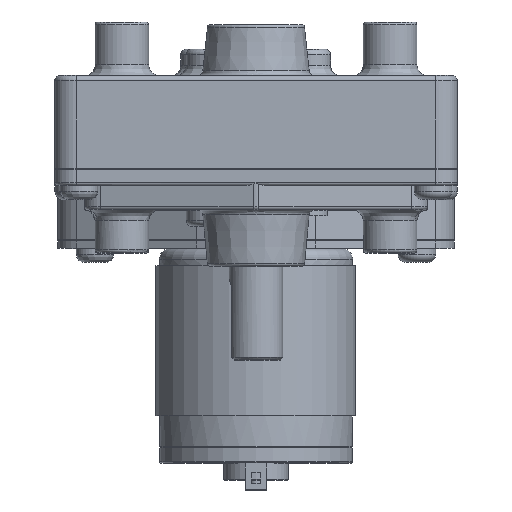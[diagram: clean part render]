
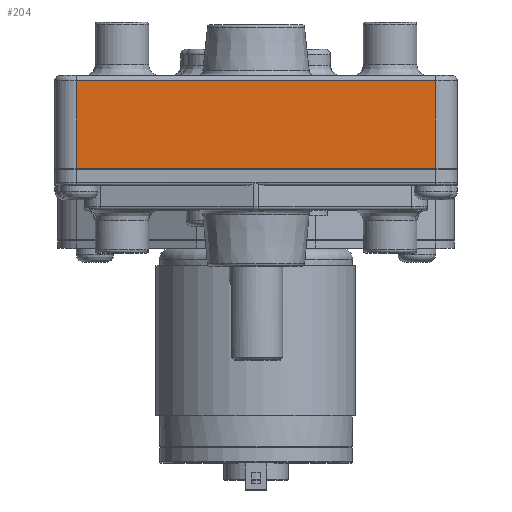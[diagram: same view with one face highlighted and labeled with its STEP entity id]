
A CAD part, top view. The second image highlights one B-rep face of the part: STEP entity #204.
In plain terms, the highlighted planar face has unit normal (0, 0, 1).
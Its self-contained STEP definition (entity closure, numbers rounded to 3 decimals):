
#113=CARTESIAN_POINT('',(-33.5,20.5,54.499));
#114=VERTEX_POINT('',#113);
#123=CARTESIAN_POINT('',(-33.5,4.2,54.499));
#124=VERTEX_POINT('',#123);
#132=CARTESIAN_POINT('',(-33.5,4.2,54.499));
#133=DIRECTION('',(0.0,1.0,0.0));
#134=VECTOR('',#133,16.3);
#135=LINE('',#132,#134);
#136=EDGE_CURVE('',#124,#114,#135,.T.);
#146=CARTESIAN_POINT('',(33.5,20.5,54.499));
#147=VERTEX_POINT('',#146);
#157=CARTESIAN_POINT('',(33.5,4.2,54.499));
#158=VERTEX_POINT('',#157);
#159=CARTESIAN_POINT('',(33.5,20.5,54.499));
#160=DIRECTION('',(0.0,-1.0,0.0));
#161=VECTOR('',#160,16.3);
#162=LINE('',#159,#161);
#163=EDGE_CURVE('',#147,#158,#162,.T.);
#183=CARTESIAN_POINT('',(37.5,4.,54.499));
#184=DIRECTION('',(0.0,0.0,1.0));
#185=DIRECTION('',(1.0,0.0,0.0));
#186=AXIS2_PLACEMENT_3D('',#183,#184,#185);
#187=PLANE('',#186);
#188=CARTESIAN_POINT('',(-33.5,20.5,54.499));
#189=DIRECTION('',(1.0,0.0,0.0));
#190=VECTOR('',#189,67.);
#191=LINE('',#188,#190);
#192=EDGE_CURVE('',#114,#147,#191,.T.);
#193=ORIENTED_EDGE('',*,*,#192,.F.);
#194=ORIENTED_EDGE('',*,*,#136,.F.);
#195=CARTESIAN_POINT('',(-33.5,4.2,54.499));
#196=DIRECTION('',(1.0,0.0,0.0));
#197=VECTOR('',#196,67.);
#198=LINE('',#195,#197);
#199=EDGE_CURVE('',#124,#158,#198,.T.);
#200=ORIENTED_EDGE('',*,*,#199,.T.);
#201=ORIENTED_EDGE('',*,*,#163,.F.);
#202=EDGE_LOOP('',(#193,#194,#200,#201));
#203=FACE_OUTER_BOUND('',#202,.T.);
#204=ADVANCED_FACE('',(#203),#187,.T.);
